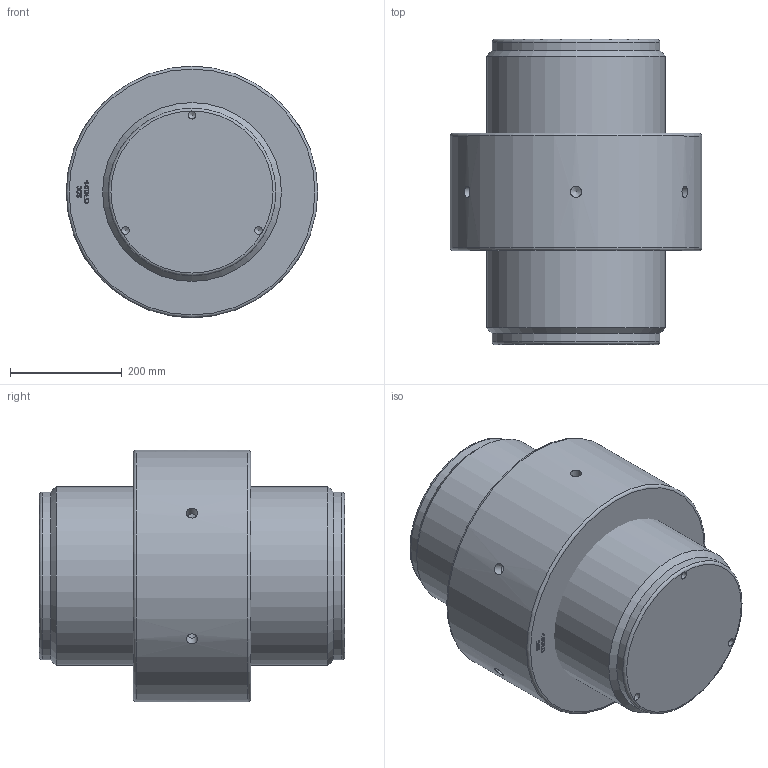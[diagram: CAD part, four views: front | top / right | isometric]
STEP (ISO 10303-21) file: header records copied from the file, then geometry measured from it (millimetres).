
FILE_DESCRIPTION(/* description */ (''),/* implementation_level */ '2;1');
FILE_NAME(/* name */ 'F:\Clienti LS\Redaelli\CYT\CYT\ARRNGEMENT\CYT104 61 061 0.stp',/* time_stamp */ '2021-05-09T08:53:58+02:00',/* author */ ('ranca'),/* organization */ (''),/* preprocessor_version */ 'ST-DEVELOPER v16.13',/* originating_system */ 'Autodesk Inventor 2018',/* authorisation */ '');
FILE_SCHEMA (('AUTOMOTIVE_DESIGN { 1 0 10303 214 3 1 1 }'));
Length unit declared in the file: millimetre
Products named in the file (3): CYT012-61-061-0; CYT012-61-061-0_1; CYT012-61-061-0_DADO
Assembly tree (2 placements, depth 2):
  CYT012-61-061-0
    CYT012-61-061-0_1
    CYT012-61-061-0_DADO
Bounding box: 450 x 546 x 450 mm (x, y, z)
Volume: 60527197.8 mm3; surface area: 1365589.2 mm2
Topology: 2 solids, 2 shells, 330 faces, 896 edges, 596 vertices
Faces by surface type: plane 151, bspline 150, cylinder 14, cone 11, torus 4
Full cylindrical faces by diameter (mm): 13.835 x3, 20 x6, 300 x2, 313.505 x1, 320 x1, 450 x1
Entity records: 11098 total; most frequent: CARTESIAN_POINT 3926, ORIENTED_EDGE 1702, DIRECTION 935, EDGE_CURVE 851, VERTEX_POINT 580, LINE 513, VECTOR 513, EDGE_LOOP 387
